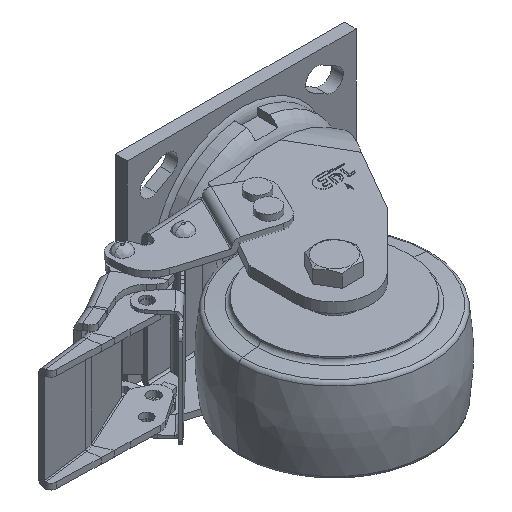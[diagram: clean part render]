
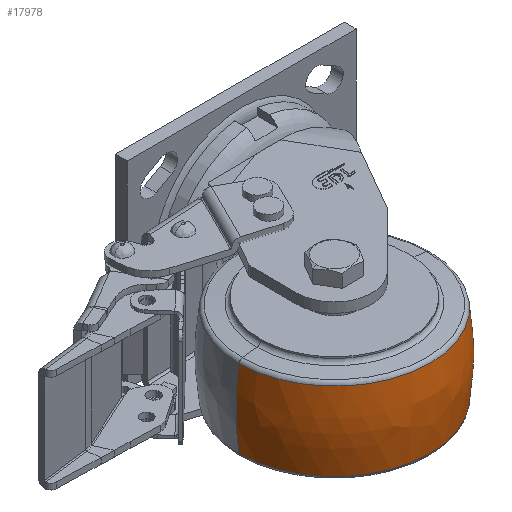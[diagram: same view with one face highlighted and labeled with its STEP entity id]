
A CAD part, isometric view. The second image highlights one B-rep face of the part: STEP entity #17978.
In plain terms, the highlighted free-form (B-spline) face has degree [3, 3] with [7, 4] control points.
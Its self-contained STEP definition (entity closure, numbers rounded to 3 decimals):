
#17550=CARTESIAN_POINT('',(0.,-76.741,0.));
#17551=DIRECTION('',(0.,0.,1.));
#17552=DIRECTION('',(0.156,0.988,0.));
#17553=AXIS2_PLACEMENT_3D('',#17550,#17551,#17552);
#17555=CARTESIAN_POINT('',(0.,76.741,0.));
#17556=DIRECTION('',(0.,0.,-1.));
#17557=DIRECTION('',(0.156,-0.988,0.));
#17558=AXIS2_PLACEMENT_3D('',#17555,#17556,#17557);
#17560=CARTESIAN_POINT('',(19.804,0.,0.));
#17561=DIRECTION('',(-1.,0.,0.));
#17562=DIRECTION('',(0.,1.,0.));
#17563=AXIS2_PLACEMENT_3D('',#17560,#17561,#17562);
#17575=CARTESIAN_POINT('',(-19.804,0.,0.));
#17576=DIRECTION('',(-1.,0.,0.));
#17577=DIRECTION('',(0.,1.,0.));
#17578=AXIS2_PLACEMENT_3D('',#17575,#17576,#17577);
#17785=CARTESIAN_POINT('',(19.804,48.443,0.));
#17786=VERTEX_POINT('',#17785);
#17787=CARTESIAN_POINT('',(-19.804,48.443,0.));
#17788=VERTEX_POINT('',#17787);
#17817=CARTESIAN_POINT('',(19.804,-48.443,
0.));
#17818=VERTEX_POINT('',#17817);
#17819=CARTESIAN_POINT('',(-19.804,-48.443,
0.));
#17820=VERTEX_POINT('',#17819);
#17942=CARTESIAN_POINT('',(-20.589,-48.221,
3.034));
#17943=CARTESIAN_POINT('',(-6.924,-50.466,
3.175));
#17944=CARTESIAN_POINT('',(6.924,-50.466,
3.175));
#17945=CARTESIAN_POINT('',(20.589,-48.221,
3.034));
#17946=CARTESIAN_POINT('',(-20.589,-50.088,
-26.641));
#17947=CARTESIAN_POINT('',(-6.924,-52.42,
-27.882));
#17948=CARTESIAN_POINT('',(6.924,-52.42,
-27.882));
#17949=CARTESIAN_POINT('',(20.589,-50.088,
-26.641));
#17950=CARTESIAN_POINT('',(-20.589,-29.734,
-48.316));
#17951=CARTESIAN_POINT('',(-6.924,-31.118,
-50.566));
#17952=CARTESIAN_POINT('',(6.924,-31.118,
-50.566));
#17953=CARTESIAN_POINT('',(20.589,-29.734,
-48.316));
#17954=CARTESIAN_POINT('',(-20.589,0.,
-48.316));
#17955=CARTESIAN_POINT('',(-6.924,0.,
-50.566));
#17956=CARTESIAN_POINT('',(6.924,0.,
-50.566));
#17957=CARTESIAN_POINT('',(20.589,0.,
-48.316));
#17958=CARTESIAN_POINT('',(-20.589,29.734,
-48.316));
#17959=CARTESIAN_POINT('',(-6.924,31.118,
-50.566));
#17960=CARTESIAN_POINT('',(6.924,31.118,
-50.566));
#17961=CARTESIAN_POINT('',(20.589,29.734,
-48.316));
#17962=CARTESIAN_POINT('',(-20.589,50.088,
-26.641));
#17963=CARTESIAN_POINT('',(-6.924,52.42,
-27.882));
#17964=CARTESIAN_POINT('',(6.924,52.42,
-27.882));
#17965=CARTESIAN_POINT('',(20.589,50.088,
-26.641));
#17966=CARTESIAN_POINT('',(-20.589,48.221,
3.034));
#17967=CARTESIAN_POINT('',(-6.924,50.466,
3.175));
#17968=CARTESIAN_POINT('',(6.924,50.466,3.175));
#17969=CARTESIAN_POINT('',(20.589,48.221,3.034));
#17970=(BOUNDED_SURFACE()B_SPLINE_SURFACE(3,3,((#17942,#17943,#17944,#17945),(
#17946,#17947,#17948,#17949),(#17950,#17951,#17952,#17953),(#17954,#17955,
#17956,#17957),(#17958,#17959,#17960,#17961),(#17962,#17963,#17964,#17965),(
#17966,#17967,#17968,#17969)),.UNSPECIFIED.,.F.,.F.,.F.)B_SPLINE_SURFACE_WITH_KNOTS((4,3,4),(4,4),(0.,1.,2.),(0.,1.),.UNSPECIFIED.)GEOMETRIC_REPRESENTATION_ITEM()RATIONAL_B_SPLINE_SURFACE(((1.195,1.185,
1.185,1.195),(0.944,0.935,
0.935,0.944),(0.944,0.935,
0.935,0.944),(1.195,1.185,
1.185,1.195),(0.944,0.935,
0.935,0.944),(0.944,0.935,
0.935,0.944),(1.195,1.185,
1.185,1.195)))REPRESENTATION_ITEM('')SURFACE());
#17971=ORIENTED_EDGE('',*,*,#17932,.T.);
#17973=ORIENTED_EDGE('',*,*,#17972,.T.);
#17974=ORIENTED_EDGE('',*,*,#17935,.F.);
#17975=ORIENTED_EDGE('',*,*,#17882,.F.);
#17976=EDGE_LOOP('',(#17971,#17973,#17974,#17975));
#17977=FACE_OUTER_BOUND('',#17976,.F.);
#17554=CIRCLE('',#17553,126.741);
#17559=CIRCLE('',#17558,126.741);
#17564=CIRCLE('',#17563,48.443);
#17579=CIRCLE('',#17578,48.443);
#17882=EDGE_CURVE('',#17786,#17818,#17564,.T.);
#17932=EDGE_CURVE('',#17786,#17788,#17554,.T.);
#17935=EDGE_CURVE('',#17818,#17820,#17559,.T.);
#17972=EDGE_CURVE('',#17788,#17820,#17579,.T.);
#17978=ADVANCED_FACE('',(#17977),#17970,.T.);
